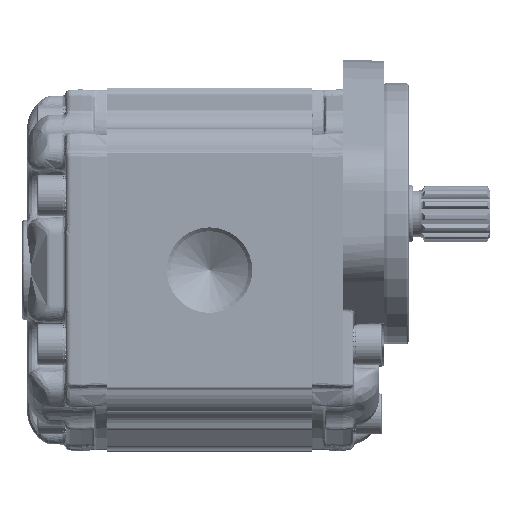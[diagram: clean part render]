
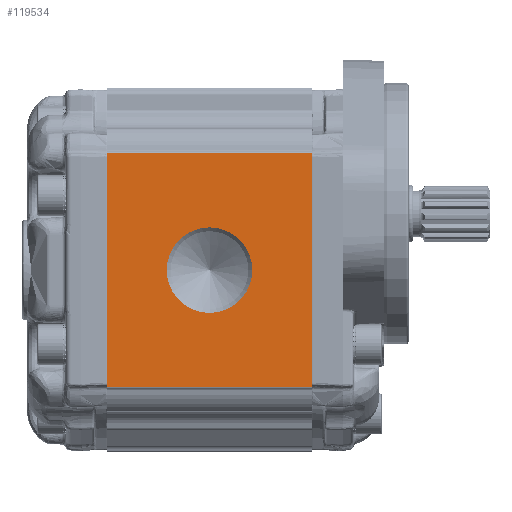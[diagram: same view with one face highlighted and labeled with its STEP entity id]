
A CAD part, left-side view. The second image highlights one B-rep face of the part: STEP entity #119534.
In plain terms, the highlighted planar face has unit normal (-1, 0, 0).
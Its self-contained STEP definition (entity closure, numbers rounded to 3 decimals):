
#7407=PLANE('',#125933);
#10193=LINE('',#217653,#15012);
#10204=LINE('',#217738,#15023);
#10242=LINE('',#217838,#15061);
#10243=LINE('',#217839,#15062);
#15012=VECTOR('',#139331,1000.);
#15023=VECTOR('',#139406,1000.);
#15061=VECTOR('',#139524,1000.);
#15062=VECTOR('',#139525,1000.);
#30749=ORIENTED_EDGE('',*,*,#52016,.T.);
#30750=ORIENTED_EDGE('',*,*,#51920,.F.);
#30751=ORIENTED_EDGE('',*,*,#52017,.T.);
#30752=ORIENTED_EDGE('',*,*,#51962,.F.);
#30753=ORIENTED_EDGE('',*,*,#52018,.T.);
#51920=EDGE_CURVE('',#63439,#63440,#10193,.T.);
#51962=EDGE_CURVE('',#63481,#63482,#10204,.T.);
#52016=EDGE_CURVE('',#63503,#63503,#70191,.F.);
#52017=EDGE_CURVE('',#63439,#63482,#10242,.F.);
#52018=EDGE_CURVE('',#63481,#63440,#10243,.F.);
#63439=VERTEX_POINT('',#217652);
#63440=VERTEX_POINT('',#217654);
#63481=VERTEX_POINT('',#217737);
#63482=VERTEX_POINT('',#217739);
#63503=VERTEX_POINT('',#217837);
#70191=CIRCLE('',#125934,16.646);
#74562=EDGE_LOOP('',(#30749));
#74563=EDGE_LOOP('',(#30750,#30751,#30752,#30753));
#79724=FACE_BOUND('',#74562,.T.);
#79725=FACE_BOUND('',#74563,.T.);
#119534=ADVANCED_FACE('',(#79724,#79725),#7407,.T.);
#125933=AXIS2_PLACEMENT_3D('',#217835,#139520,#139521);
#125934=AXIS2_PLACEMENT_3D('',#217836,#139522,#139523);
#139331=DIRECTION('',(0.,0.,1.));
#139406=DIRECTION('',(0.,0.,-1.));
#139520=DIRECTION('',(-1.,0.,0.));
#139521=DIRECTION('',(0.,0.,-1.));
#139522=DIRECTION('',(-1.,0.,0.));
#139523=DIRECTION('',(0.,0.,-1.));
#139524=DIRECTION('',(0.,1.,0.));
#139525=DIRECTION('',(0.,-1.,0.));
#217652=CARTESIAN_POINT('',(-57.5,80.,-45.5));
#217653=CARTESIAN_POINT('',(-57.5,80.,-84.819));
#217654=CARTESIAN_POINT('',(-57.5,80.,45.5));
#217737=CARTESIAN_POINT('',(-57.5,0.,45.5));
#217738=CARTESIAN_POINT('',(-57.5,0.,-44.978));
#217739=CARTESIAN_POINT('',(-57.5,0.,-45.5));
#217835=CARTESIAN_POINT('',(-57.5,-146.137,-84.819));
#217836=CARTESIAN_POINT('',(-57.5,40.,0.));
#217837=CARTESIAN_POINT('',(-57.5,40.,-16.646));
#217838=CARTESIAN_POINT('',(-57.5,-146.137,-45.5));
#217839=CARTESIAN_POINT('',(-57.5,-146.137,45.5));
